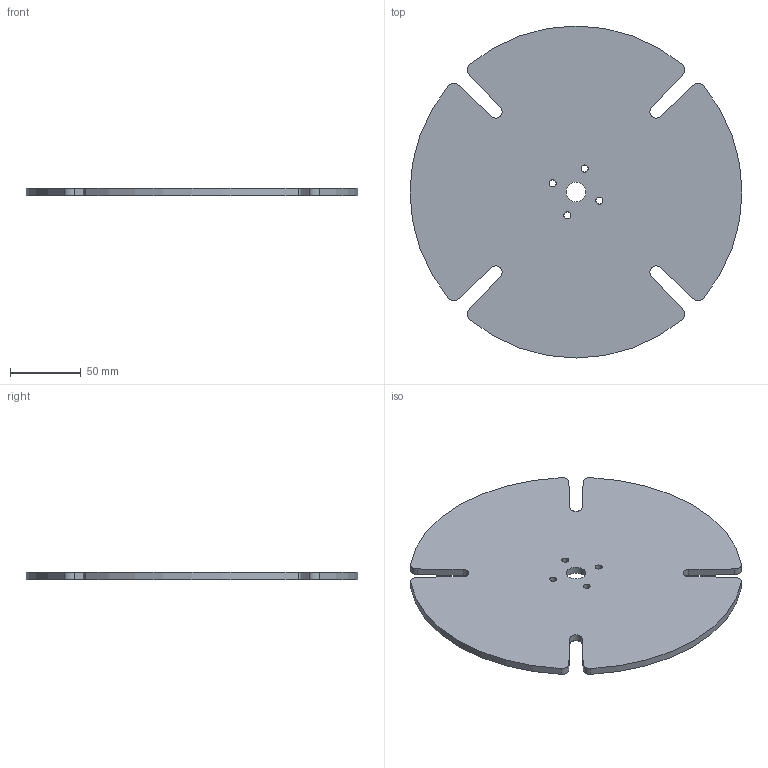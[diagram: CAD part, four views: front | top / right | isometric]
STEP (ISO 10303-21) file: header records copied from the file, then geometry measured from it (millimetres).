
FILE_DESCRIPTION((''),'2;1');
FILE_NAME('COV-02-0002-01','2021-06-30T',('Tomáš'),(''),'CREO PARAMETRIC BY PTC INC, 2016050','CREO PARAMETRIC BY PTC INC, 2016050','');
FILE_SCHEMA(('CONFIG_CONTROL_DESIGN'));
Length unit declared in the file: millimetre
Products named in the file (1): COV-02-0002-01
Bounding box: 235 x 235 x 5 mm (x, y, z)
Volume: 207782 mm3; surface area: 88797 mm2
Topology: 1 solids, 1 shells, 36 faces, 102 edges, 68 vertices
Faces by surface type: cylinder 26, plane 10
Entity records: 1256 total; most frequent: DIRECTION 226, CARTESIAN_POINT 206, ORIENTED_EDGE 204, EDGE_CURVE 102, AXIS2_PLACEMENT_3D 88, VERTEX_POINT 68, CIRCLE 52, VECTOR 50
